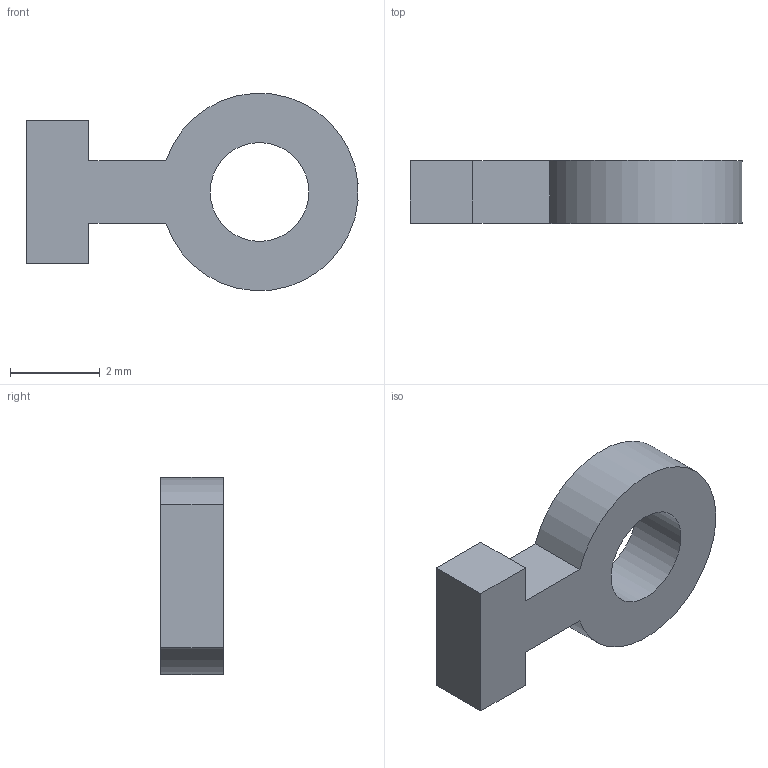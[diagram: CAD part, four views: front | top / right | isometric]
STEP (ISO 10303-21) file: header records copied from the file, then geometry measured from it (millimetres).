
FILE_DESCRIPTION(('Open CASCADE Model'),'2;1');
FILE_NAME('PCB_EDGE_CLIP_4','2026-09-06T11:49:22',('Author'),( 'Open CASCADE'),'Open CASCADE STEP processor 7.8','build123d', 'Unknown');
FILE_SCHEMA(('AUTOMOTIVE_DESIGN { 1 0 10303 214 1 1 1 1 }'));
Length unit declared in the file: millimetre
Products named in the file (2): =>[0:1:1:2]; PCB_EDGE_CLIP_4
Assembly tree (1 placements, depth 2):
  =>[0:1:1:2]
    PCB_EDGE_CLIP_4
Bounding box: 7.39 x 1.4 x 4.39 mm (x, y, z)
Volume: 25.4 mm3; surface area: 79.1 mm2
Topology: 1 solids, 1 shells, 11 faces, 27 edges, 18 vertices
Faces by surface type: plane 9, cylinder 2
Full cylindrical faces by diameter (mm): 2.2 x1
Entity records: 715 total; most frequent: CARTESIAN_POINT 132, DIRECTION 106, LINE 71, VECTOR 71, ORIENTED_EDGE 54, PCURVE 54, DEFINITIONAL_REPRESENTATION 54, EDGE_CURVE 27
